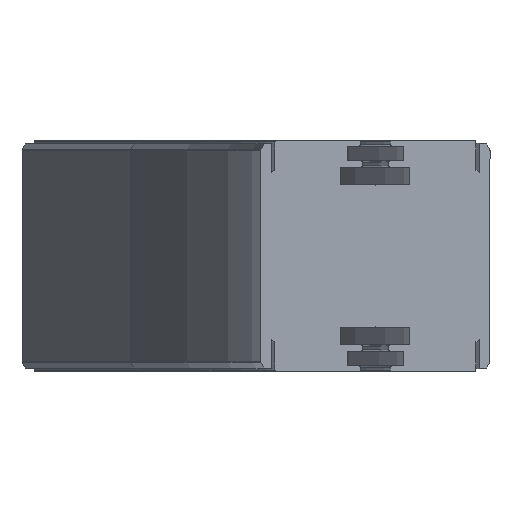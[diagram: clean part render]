
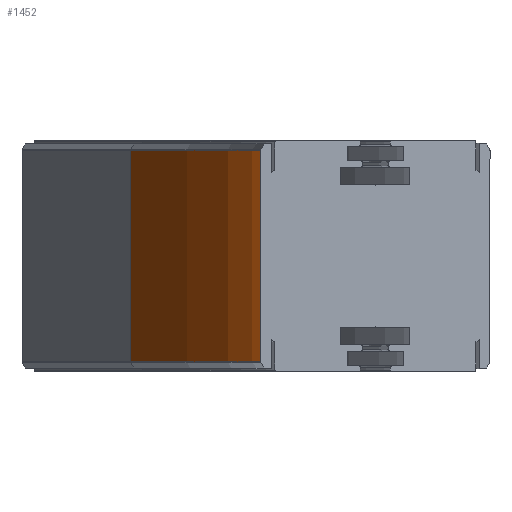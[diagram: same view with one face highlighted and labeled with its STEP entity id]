
A CAD part, left-side view. The second image highlights one B-rep face of the part: STEP entity #1452.
In plain terms, the highlighted cylindrical face has radius 357.8 mm (diameter 715.6 mm), a partial arc.
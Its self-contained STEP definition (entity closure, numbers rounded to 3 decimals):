
#36 = CARTESIAN_POINT ( 'NONE',  ( 80., 400., -38.866 ) ) ;
#91 = DIRECTION ( 'NONE',  ( -1., 0., 0. ) ) ;
#146 = DIRECTION ( 'NONE',  ( 0., 0., 1. ) ) ;
#251 = CARTESIAN_POINT ( 'NONE',  ( 80., 42.2, 0. ) ) ;
#393 = DIRECTION ( 'NONE',  ( 0., 0., -1. ) ) ;
#436 = CARTESIAN_POINT ( 'NONE',  ( 258.9, 90.136, -38.866 ) ) ;
#517 = DIRECTION ( 'NONE',  ( -1., 0., 0. ) ) ;
#730 = DIRECTION ( 'NONE',  ( 0., 0., -1. ) ) ;
#788 = DIRECTION ( 'NONE',  ( 0., 0., -1. ) ) ;
#792 = CARTESIAN_POINT ( 'NONE',  ( 80., 400., 38.866 ) ) ;
#896 = CARTESIAN_POINT ( 'NONE',  ( 258.9, 90.136, 38.866 ) ) ;
#1304 = CARTESIAN_POINT ( 'NONE',  ( 258.9, 90.136, -38.866 ) ) ;
#1452 = ADVANCED_FACE ( 'NONE', ( #2002 ), #2236, .F. ) ;
#1686 = AXIS2_PLACEMENT_3D ( 'NONE', #792, #730, #517 ) ;
#1699 = AXIS2_PLACEMENT_3D ( 'NONE', #36, #393, #91 ) ;
#1887 = EDGE_LOOP ( 'NONE', ( #7620, #7587, #6976, #7219 ) ) ;
#1955 = VERTEX_POINT ( 'NONE', #6312 ) ;
#2002 = FACE_OUTER_BOUND ( 'NONE', #1887, .T. ) ;
#2236 = CYLINDRICAL_SURFACE ( 'NONE', #3169, 357.8 ) ;
#2494 = VERTEX_POINT ( 'NONE', #6183 ) ;
#3169 = AXIS2_PLACEMENT_3D ( 'NONE', #4716, #4664, #5052 ) ;
#3281 = EDGE_CURVE ( 'NONE', #5297, #5728, #3938, .T. ) ;
#3289 = EDGE_CURVE ( 'NONE', #5728, #1955, #3669, .T. ) ;
#3353 = EDGE_CURVE ( 'NONE', #5297, #2494, #4349, .T. ) ;
#3432 = EDGE_CURVE ( 'NONE', #1955, #2494, #4269, .T. ) ;
#3536 = VECTOR ( 'NONE', #146, 1000. ) ;
#3669 = CIRCLE ( 'NONE', #1699, 357.8 ) ;
#3938 = LINE ( 'NONE', #436, #4540 ) ;
#4269 = LINE ( 'NONE', #251, #3536 ) ;
#4349 = CIRCLE ( 'NONE', #1686, 357.8 ) ;
#4540 = VECTOR ( 'NONE', #788, 1000. ) ;
#4664 = DIRECTION ( 'NONE',  ( 0., 0., -1. ) ) ;
#4716 = CARTESIAN_POINT ( 'NONE',  ( 80., 400., 0. ) ) ;
#5052 = DIRECTION ( 'NONE',  ( -1., 0., 0. ) ) ;
#5297 = VERTEX_POINT ( 'NONE', #896 ) ;
#5728 = VERTEX_POINT ( 'NONE', #1304 ) ;
#6183 = CARTESIAN_POINT ( 'NONE',  ( 80., 42.2, 38.866 ) ) ;
#6312 = CARTESIAN_POINT ( 'NONE',  ( 80., 42.2, -38.866 ) ) ;
#6976 = ORIENTED_EDGE ( 'NONE', *, *, #3281, .T. ) ;
#7219 = ORIENTED_EDGE ( 'NONE', *, *, #3289, .T. ) ;
#7587 = ORIENTED_EDGE ( 'NONE', *, *, #3353, .F. ) ;
#7620 = ORIENTED_EDGE ( 'NONE', *, *, #3432, .T. ) ;
